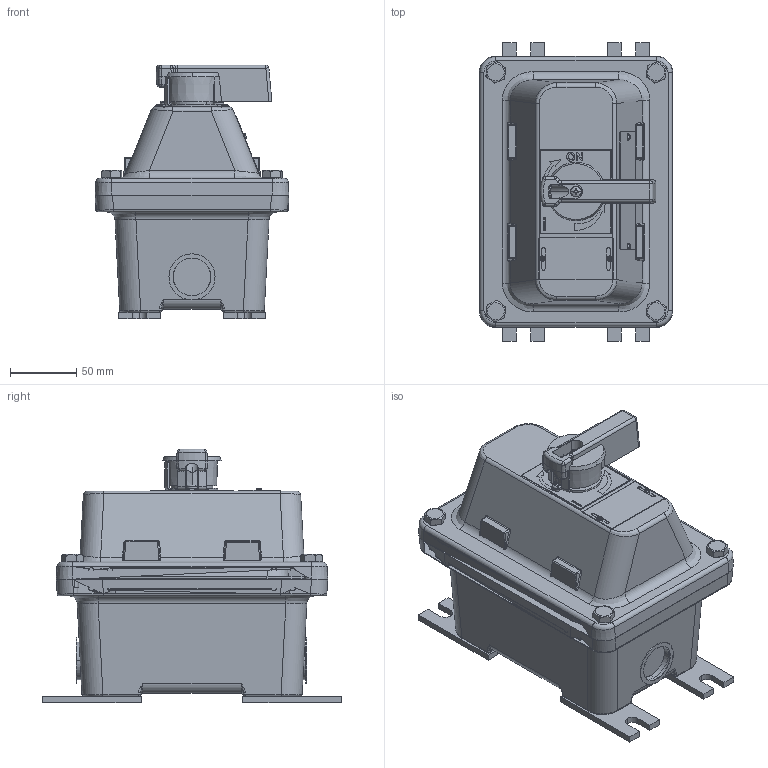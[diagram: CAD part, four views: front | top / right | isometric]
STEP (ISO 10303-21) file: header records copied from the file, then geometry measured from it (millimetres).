
FILE_DESCRIPTION (( 'STEP AP203' ), '1' );
FILE_NAME ('EXP-MTSTR-DOL-3P-480V-30HP-40A.STEP', '2025-02-21T15:21:25', ( '' ), ( '' ), 'SwSTEP 2.0', 'SolidWorks 2020', '' );
FILE_SCHEMA (( 'CONFIG_CONTROL_DESIGN' ));
Products named in the file (1): EXP-MTSTR-DOL-3P-480V-30HP-40A
Bounding box: 146.73 x 226.22 x 192.06 mm (x, y, z)
Volume: 1557440.1 mm3; surface area: 330741.6 mm2
Topology: 35 solids, 35 shells, 2301 faces, 6031 edges, 3871 vertices
Faces by surface type: plane 1254, cylinder 685, cone 161, bspline 99, torus 61, sphere 41
Entity records: 109498 total; most frequent: CARTESIAN_POINT 54340, ORIENTED_EDGE 11938, DIRECTION 10746, EDGE_CURVE 5969, VERTEX_POINT 3877, LINE 3690, VECTOR 3690, AXIS2_PLACEMENT_3D 3528
